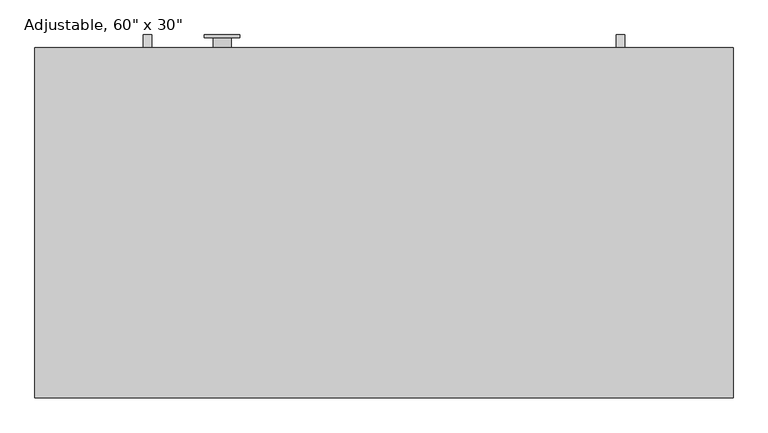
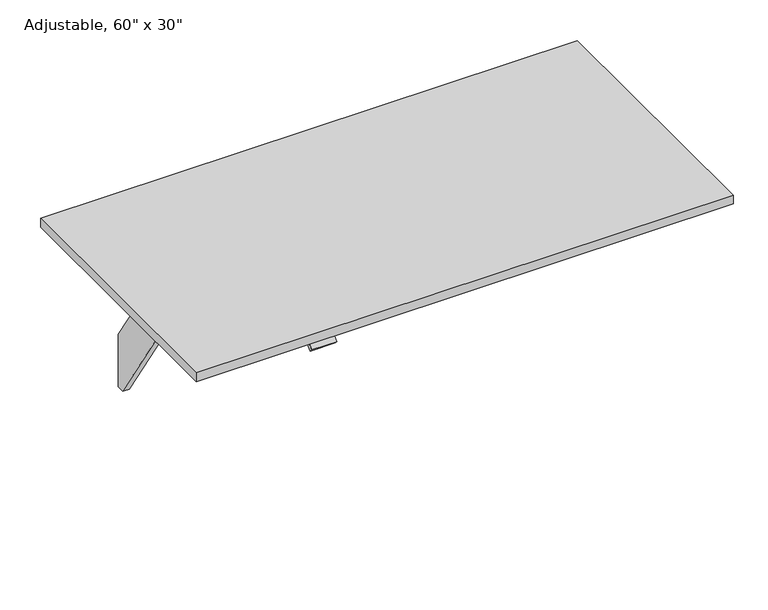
"""IFC4 building model written with IfcOpenShell, lengths in millimetres: furniture geometry."""

from ifc_helpers import new_model, si_unit, point, frame, frame_2d, origin, place, context, project, spatial, polyline, circle_curve, trimmed, segment, composite_curve, outline, extrude, source, transform, mapped, element, save
from ifc_brep_helpers import plane_surface, cylinder_surface, revolved_surface, advanced_brep


def furniture_db7c38db(model_context):
    return source(origin(), model_context, "Body", "SolidModel", [
        extrude(outline(polyline([(29.2199219, 153.5921541), (8.6276198, 153.5921541), (-345.3046137, 698.6), (-477.3090911, 698.6), (-485.7513898, 711.6), (-85.1019822, 711.6), (-93.5442809, 698.6), (-226.0682844, 698.6), (29.2199219, 305.4906355), (29.2199219, 153.5921541)])), frame((115.1244025, 0.0, 0.0), z_axis=(1.0, 0.0, 0.0), x_axis=(0.0, 1.0, 0.0)), (0.0, 0.0, 1.0), 18.0),
        extrude(outline(composite_curve([segment(polyline([(-733.1055966, 691.708916), (-717.7537239, 704.5906666)]), True, "CONTINUOUS"), segment(trimmed(circle_curve(frame_2d((-708.1119098, 693.1)), 15.0), [point((-717.7537239, 704.5906666))], [point((-708.1119098, 708.1))], False, "CARTESIAN"), True, "CONTINUOUS"), segment(polyline([(-708.1119098, 708.1), (-703.2331661, 708.1), (-703.2331661, 711.6), (-664.784231, 711.6), (-664.784231, 708.1), (-659.001686, 708.1), (-659.001686, 697.1), (-707.7479396, 697.1)]), True, "CONTINUOUS"), segment(trimmed(circle_curve(frame_2d((-707.7479396, 692.1)), 5.0), [point((-707.7479396, 697.1))], [point((-710.9618776, 695.9302222))], True, "CARTESIAN"), True, "CONTINUOUS"), segment(polyline([(-710.9618776, 695.9302222), (-726.0349329, 683.2824271), (-733.1055966, 691.708916)]), True, "CONTINUOUS")], self_intersect=False)), frame((-789.6329775, 0.0, 0.0), z_axis=(1.0, 0.0, 0.0), x_axis=(0.0, 1.0, 0.0)), (0.0, 0.0, 1.0), 68.58),
        advanced_brep(
        [(-693.7356275, -171.1428681, 364.5778173), (-693.7356275, -171.1428681, 711.6), (-693.7356275, -209.1312877, 711.6), (-693.7356275, -209.1312877, 700.4375), (-693.7356275, -193.3960503, 691.3527565), (-693.7356275, -190.4851047, 691.3527565), (-693.7356275, -190.4851047, 365.4712483), (-693.7356275, 18.612113, 365.4712483), (-693.7356275, 18.612113, 565.4962483), (-693.7356275, 23.285119, 565.4962483), (-693.7356275, 23.285119, 663.0278173), (-693.7356275, -0.6170974, 663.0278173), (-693.7356275, -0.6170974, 364.5778173), (-731.9356275, -171.1428681, 364.5778173), (-731.9356275, -0.6170974, 364.5778173), (-731.9356275, -0.6170974, 663.0278173), (-731.9356275, 23.285119, 663.0278173), (-731.9356275, 23.285119, 565.4962483), (-731.9356275, 18.612113, 565.4962483), (-731.9356275, 18.612113, 365.4712483), (-731.9356275, -190.4851047, 365.4712483), (-731.9356275, -190.4851047, 691.3527565), (-731.9356275, -193.3960503, 691.3527565), (-731.9356275, -209.1312877, 700.4375), (-731.9356275, -209.1312877, 711.6), (-731.9356275, -171.1428681, 711.6), (-750.4935537, 23.285119, 565.4962483), (-750.4935537, 29.2199219, 565.4962483), (-675.3564013, 29.2199219, 565.4962483), (-675.3564013, 23.285119, 565.4962483), (-750.4935537, 29.2199219, 678.865527), (-675.3564013, 29.2199219, 678.865527), (-750.4935537, 23.285119, 678.865527), (-675.3564013, 23.285119, 678.865527)],
        [
            (0, 1),
            (1, 2),
            (2, 3),
            (3, 4),
            (4, 5),
            (5, 6),
            (6, 7, circle_curve(frame((-693.7356275, -85.9364959, 365.4712483), z_axis=(1.0, 0.0, 0.0), x_axis=(0.0, 0.0, 1.0)), 104.5486088)),
            (7, 8),
            (8, 9),
            (9, 10),
            (10, 11),
            (11, 12),
            (12, 0, circle_curve(frame((-693.7356275, -85.8799828, 364.5778173), z_axis=(-1.0, 0.0, 0.0), x_axis=(0.0, 0.0, 1.0)), 85.2628854)),
            (13, 14, circle_curve(frame((-731.9356275, -85.8799828, 364.5778173), z_axis=(1.0, 0.0, 0.0), x_axis=(0.0, 0.0, 1.0)), 85.2628854)),
            (14, 15),
            (15, 16),
            (16, 17),
            (17, 18),
            (18, 19),
            (19, 20, circle_curve(frame((-731.9356275, -85.9364959, 365.4712483), z_axis=(-1.0, 0.0, 0.0), x_axis=(0.0, 0.0, 1.0)), 104.5486088)),
            (20, 21),
            (21, 22),
            (22, 23),
            (23, 24),
            (24, 25),
            (25, 13),
            (0, 13),
            (25, 1),
            (24, 2),
            (23, 3),
            (22, 4),
            (21, 5),
            (20, 6),
            (19, 7),
            (18, 8),
            (17, 26),
            (26, 27),
            (27, 28),
            (28, 29),
            (29, 9),
            (27, 30),
            (30, 31),
            (31, 28),
            (30, 32),
            (32, 33),
            (33, 31),
            (32, 26),
            (16, 10),
            (29, 33),
            (15, 11),
            (14, 12),
        ],
        [
            plane_surface(frame((-693.7356275, 29.2199219, 736.6), z_axis=(1.0, 0.0, 0.0), x_axis=(0.0, 1.0, 0.0))),
            plane_surface(frame((-731.9356275, 29.2199219, 736.6), z_axis=(-1.0, 0.0, 0.0), x_axis=(0.0, 1.0, 0.0))),
            plane_surface(frame((-693.7356275, -171.1428681, 364.5778173), z_axis=(0.0, 1.0, 0.0), x_axis=(-1.0, 0.0, 0.0))),
            plane_surface(frame((-693.7356275, -171.1428681, 711.6), z_axis=(0.0, 0.0, 1.0), x_axis=(-1.0, 0.0, 0.0))),
            plane_surface(frame((-693.7356275, -209.1312877, 711.6), z_axis=(0.0, -1.0, 0.0), x_axis=(-1.0, 0.0, 0.0))),
            plane_surface(frame((-693.7356275, -209.1312877, 700.4375), z_axis=(0.0, -0.4999999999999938, -0.8660254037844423), x_axis=(-1.0, 0.0, 0.0))),
            plane_surface(frame((-693.7356275, -193.3960503, 691.3527565), z_axis=(0.0, 0.0, -1.0), x_axis=(-1.0, 0.0, 0.0))),
            plane_surface(frame((-693.7356275, -190.4851047, 691.3527565), z_axis=(0.0, -1.0, 0.0), x_axis=(-1.0, 0.0, 0.0))),
            cylinder_surface(frame((-693.7356275, -85.9364959, 365.4712483), z_axis=(1.0, 0.0, 0.0), x_axis=(0.0, 0.0, 1.0)), 104.5486088),
            plane_surface(frame((-693.7356275, 18.612113, 365.4712483), z_axis=(0.0, 1.0, 0.0), x_axis=(-1.0, 0.0, 0.0))),
            plane_surface(frame((-693.7356275, 18.612113, 565.4962483), z_axis=(0.0, 0.0, -1.0), x_axis=(-1.0, 0.0, 0.0))),
            plane_surface(frame((-693.7356275, 29.2199219, 565.4962483), z_axis=(0.0, 1.0, 0.0), x_axis=(-1.0, 0.0, 0.0))),
            plane_surface(frame((-693.7356275, 29.2199219, 678.865527), z_axis=(0.0, 0.0, 1.0), x_axis=(-1.0, 0.0, 0.0))),
            plane_surface(frame((-693.7356275, 23.285119, 678.865527), z_axis=(0.0, -1.0, 0.0), x_axis=(-1.0, 0.0, 0.0))),
            plane_surface(frame((-693.7356275, 23.285119, 663.0278173), z_axis=(0.0, 0.0, 1.0), x_axis=(-1.0, 0.0, 0.0))),
            plane_surface(frame((-693.7356275, -0.6170974, 663.0278173), z_axis=(0.0, -1.0, 0.0), x_axis=(-1.0, 0.0, 0.0))),
            revolved_surface(polyline([(-731.9356275, -85.8799828, 449.8407027), (-693.7356275, -85.8799828, 449.8407027)]), (-693.7356275, -85.8799828, 364.5778173), (-1.0, 0.0, 0.0)),
            plane_surface(frame((-750.4935537, 29.2199219, 565.4962483), z_axis=(-1.0, 0.0, 0.0), x_axis=(0.0, -1.0, 0.0))),
            plane_surface(frame((-675.3564013, 29.2199219, 678.865527), z_axis=(1.0, 0.0, 0.0), x_axis=(0.0, -1.0, 0.0))),
        ],
        [
            (0, [[1, 2, 3, 4, 5, 6, 7, 8, 9, 10, 11, 12, 13]]),
            (1, [[14, 15, 16, 17, 18, 19, 20, 21, 22, 23, 24, 25, 26]]),
            (2, [[-1, 27, -26, 28]]),
            (3, [[-2, -28, -25, 29]]),
            (4, [[-3, -29, -24, 30]]),
            (5, [[-4, -30, -23, 31]]),
            (6, [[-5, -31, -22, 32]]),
            (7, [[-6, -32, -21, 33]]),
            (8, [[-7, -33, -20, 34]]),
            (9, [[-8, -34, -19, 35]]),
            (10, [[-35, -18, 36, 37, 38, 39, 40, -9]]),
            (11, [[-38, 41, 42, 43]]),
            (12, [[-42, 44, 45, 46]]),
            (13, [[-45, 47, -36, -17, 48, -10, -40, 49]]),
            (14, [[-11, -48, -16, 50]]),
            (15, [[-12, -50, -15, 51]]),
            (16, [[-13, -51, -14, -27]]),
            (17, [[-41, -37, -47, -44]]),
            (18, [[-43, -46, -49, -39]]),
        ],
    ),
        extrude(outline(polyline([(-212.0399277, 636.99764), (-222.7921538, 653.5546163), (-221.9144617, 654.4323085), (-209.8037968, 635.78352), (-304.5111146, 635.78352), (-348.0214234, 702.78352), (-365.36221, 702.78352), (-365.36221, 703.99764), (-347.36221, 703.99764), (-303.8519012, 636.99764), (-212.0399277, 636.99764)])), frame((-860.6429775, 0.0, 0.0), z_axis=(1.0, 0.0, 0.0), x_axis=(0.0, 1.0, 0.0)), (0.0, 0.0, 1.0), 975.76738),
        extrude(outline(polyline([(29.2199219, 153.5921541), (8.6276198, 153.5921541), (-345.3046137, 698.6), (-477.3090911, 698.6), (-485.7513898, 711.6), (-85.1019822, 711.6), (-93.5442809, 698.6), (-226.0682844, 698.6), (29.2199219, 305.4906355), (29.2199219, 153.5921541)])), frame((-878.6429775, 0.0, 0.0), z_axis=(1.0, 0.0, 0.0), x_axis=(0.0, 1.0, 0.0)), (0.0, 0.0, 1.0), 18.0),
        extrude(outline(polyline([(-1106.1842875, -734.501686), (-1106.1842875, 2.098314), (360.6657125, 2.098314), (360.6657125, -734.501686), (-1106.1842875, -734.501686)])), frame((0.0, 0.0, 711.6), z_axis=(0.0, 0.0, 1.0), x_axis=(1.0, 0.0, 0.0)), (0.0, 0.0, 1.0), 25.0),
    ])


if __name__ == "__main__":
    model = new_model("IFC4")
    model_context = context("Model", 3, world=origin())
    ifc_project = project(units=[si_unit("LENGTHUNIT", "METRE", prefix="MILLI")], contexts=[model_context])
    site = spatial("IfcSite", under=ifc_project)
    building = spatial("IfcBuilding", under=site)
    placement = place(None, origin())
    furniture_shape = furniture_db7c38db(model_context)
    element("IfcFurniture", 1, ObjectType="Furniture-Desk-Teknion-Altos_Landscape-R2015 : Adjustable, 60\" x 30\"", at=placement, inside=building, context=model_context, shape_type="MappedRepresentation", body=[
        mapped(furniture_shape, transform((0.0, 0.0, 0.0), x_axis=(1.0, 0.0, 0.0), y_axis=(0.0, 1.0, 0.0), z_axis=(0.0, 0.0, 1.0))),
    ])
    save(model, "model.ifc")
